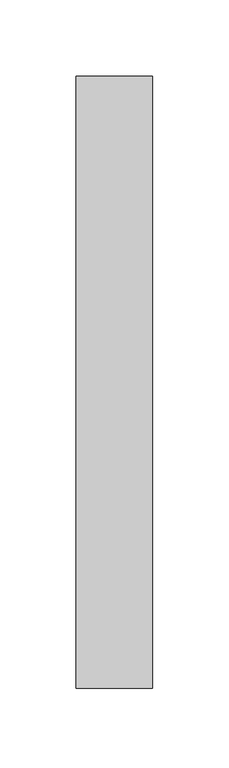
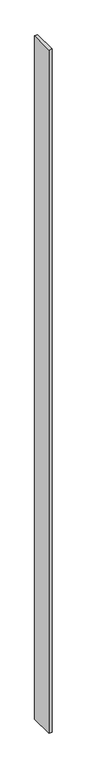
"""IFC4 building model written with IfcOpenShell, lengths in millimetres: proxy geometry, Menneau extrémité façade."""

from ifc_helpers import new_model, si_unit, origin, origin_with_axes, place, context, project, spatial, polyline, outline, extrude, source, transform, mapped, element, save


def generic_models_5e3a99f1(model_context):
    return source(origin(), model_context, "Body", "SweptSolid", [
        extrude(outline(polyline([(-3899.9988284, -10900.0), (-3949.9987968, -10900.0), (-3949.9987968, -10500.0), (-3899.9988284, -10500.0), (-3899.9988284, -10900.0)])), origin_with_axes(), (0.0, 0.0, 1.0), 11760.0),
    ])


if __name__ == "__main__":
    model = new_model("IFC4")
    model_context = context("Model", 3, world=origin())
    ifc_project = project(units=[si_unit("LENGTHUNIT", "METRE", prefix="MILLI")], contexts=[model_context])
    site = spatial("IfcSite", under=ifc_project)
    building = spatial("IfcBuilding", under=site)
    placement = place(None, origin())
    generic_models_shape = generic_models_5e3a99f1(model_context)
    element("IfcBuildingElementProxy", 1, Name="Menneau extrémité façade", ObjectType="Menneau extrémité façade", at=placement, inside=building, context=model_context, shape_type="MappedRepresentation", body=[
        mapped(generic_models_shape, transform((0.0, 0.0, 0.0), x_axis=(1.0, 0.0, 0.0), y_axis=(0.0, 1.0, 0.0), z_axis=(0.0, 0.0, 1.0))),
    ])
    save(model, "model.ifc")
